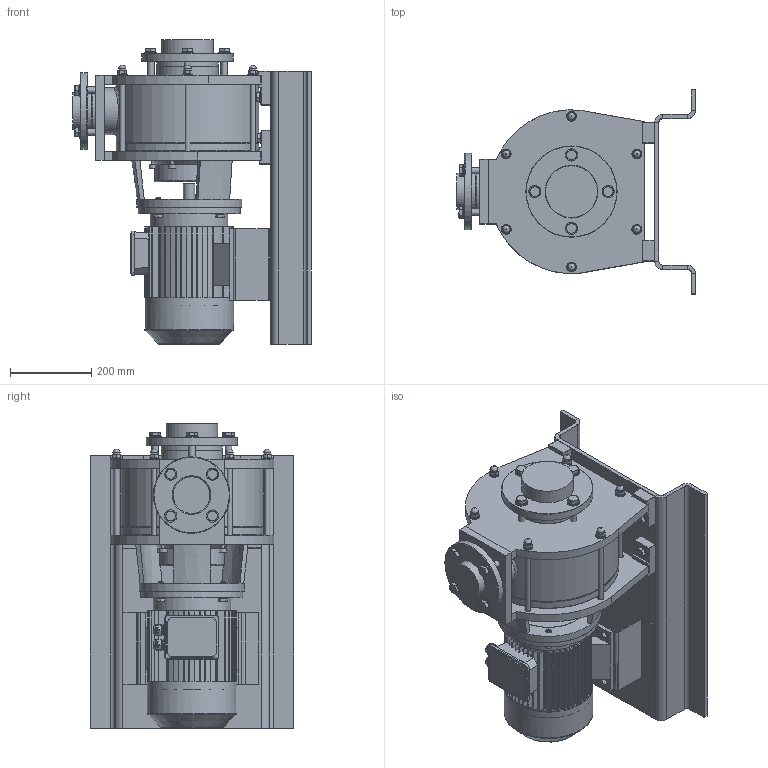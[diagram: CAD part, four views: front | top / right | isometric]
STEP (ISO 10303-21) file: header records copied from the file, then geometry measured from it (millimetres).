
FILE_DESCRIPTION(/* description */ (''),/* implementation_level */ '2;1');
FILE_NAME(/* name */ 'C:\Users\tarpo\OneDrive\Masaüstü\Pompalar Resimler ve Cad Dosyalar\400 BM 110-225-75\PP 400 BM.stp',/* time_stamp */ '2024-07-12T11:54:52+03:00',/* author */ ('tarpo'),/* organization */ (''),/* preprocessor_version */ 'ST-DEVELOPER v18',/* originating_system */ 'Autodesk Inventor 2020',/* authorisation */ '');
FILE_SCHEMA (('CONFIG_CONTROL_DESIGN'));
Products named in the file (1): PP 400 BM_Shrinkwrap_1
Bounding box: 586.26 x 500 x 748 mm (x, y, z)
Volume: 37825561.2 mm3; surface area: 3745095.1 mm2
Topology: 69 solids, 69 shells, 2346 faces, 6237 edges, 3911 vertices
Faces by surface type: plane 1361, cylinder 441, cone 308, torus 185, sphere 33, bspline 18
Full cylindrical faces by diameter (mm): 8 x8, 10 x2, 11.8 x4, 12 x6, 12.05 x6, 13 x9, 13.12 x4, 14 x4, 16 x8, 17.5 x4, 17.7 x6, 18 x5, 20.6 x4, 21.4 x2, 22.6 x4, 23.4 x4, 23.8 x4, 24 x14, 28 x5, 30 x8, 70 x1, 84.4 x1, 90 x1, 96.5 x1, 98 x1, 106 x1, 110.6 x1, 111.5 x1, 115 x1, 122.5 x1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
Entity records: 78238 total; most frequent: CARTESIAN_POINT 17324, DIRECTION 12399, ORIENTED_EDGE 12342, EDGE_CURVE 6171, AXIS2_PLACEMENT_3D 4660, VERTEX_POINT 3911, LINE 3079, VECTOR 3079
